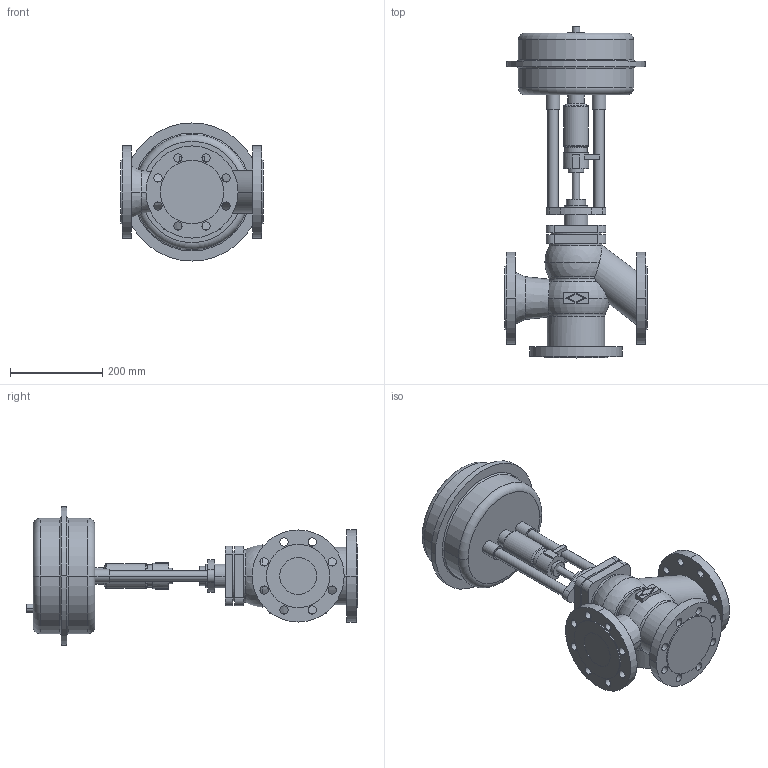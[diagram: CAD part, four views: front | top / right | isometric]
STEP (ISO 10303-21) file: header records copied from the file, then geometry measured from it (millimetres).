
FILE_DESCRIPTION(('OneSpaceDesigner STEP Export'),'2;1');
FILE_NAME('c000000687.stp','2006-09-19T10:13:36',(''),(''),'OneSpace Designer STEP processor for AP214 (Solid Model)','OneSpace Designer 13.20A 18-Aug-2005 (C) CoCreate Software GmbH','');
FILE_SCHEMA(('AUTOMOTIVE_DESIGN { 1 0 10303 214 1 1 1 1 }'));
Length unit declared in the file: millimetre
Products named in the file (2): 1; 2
Bounding box: 310 x 721.1 x 300 mm (x, y, z)
Volume: 14445614.1 mm3; surface area: 741253.5 mm2
Topology: 2 solids, 2 shells, 238 faces, 603 edges, 393 vertices
Faces by surface type: cylinder 120, plane 77, torus 29, cone 8, sphere 4
Entity records: 6575 total; most frequent: CARTESIAN_POINT 1363, ORIENTED_EDGE 1198, DIRECTION 922, EDGE_CURVE 599, VERTEX_POINT 393, AXIS2_PLACEMENT_3D 342, EDGE_LOOP 314, FACE_OUTER_BOUND 238
